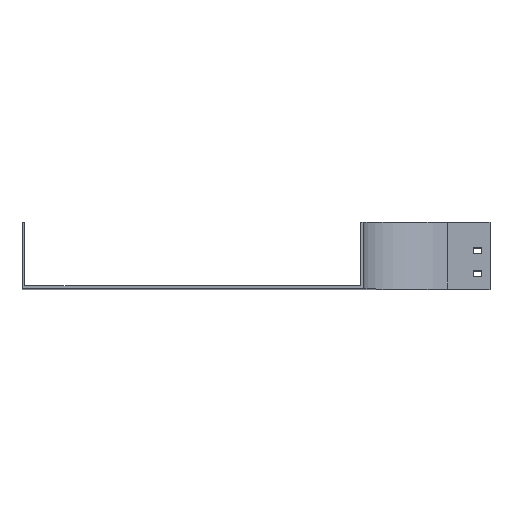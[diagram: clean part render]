
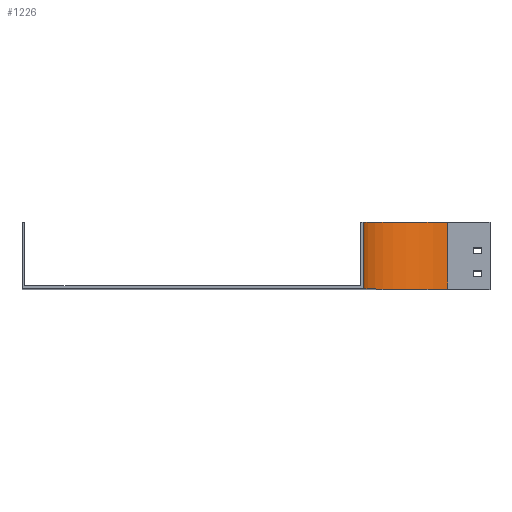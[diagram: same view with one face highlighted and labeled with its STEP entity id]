
A CAD part, top view. The second image highlights one B-rep face of the part: STEP entity #1226.
In plain terms, the highlighted cylindrical face has radius 100 mm (diameter 200 mm), a partial arc.
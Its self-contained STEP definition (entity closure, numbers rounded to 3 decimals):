
#89 = DIRECTION ( 'NONE',  ( 0., -1., 0. ) ) ;
#132 = LINE ( 'NONE', #1011, #655 ) ;
#157 = CIRCLE ( 'NONE', #797, 100. ) ;
#178 = CARTESIAN_POINT ( 'NONE',  ( -100., 79., 0. ) ) ;
#294 = LINE ( 'NONE', #1767, #1686 ) ;
#536 = DIRECTION ( 'NONE',  ( 0., 0., -1. ) ) ;
#538 = CARTESIAN_POINT ( 'NONE',  ( 0., 79., -100. ) ) ;
#555 = EDGE_CURVE ( 'NONE', #2534, #2693, #132, .T. ) ;
#579 = ORIENTED_EDGE ( 'NONE', *, *, #555, .T. ) ;
#655 = VECTOR ( 'NONE', #2504, 1000. ) ;
#708 = DIRECTION ( 'NONE',  ( 0., -1., 0. ) ) ;
#797 = AXIS2_PLACEMENT_3D ( 'NONE', #1222, #1407, #536 ) ;
#879 = DIRECTION ( 'NONE',  ( 0., 0., -1. ) ) ;
#924 = VERTEX_POINT ( 'NONE', #538 ) ;
#1011 = CARTESIAN_POINT ( 'NONE',  ( -100., 79., 0. ) ) ;
#1015 = CIRCLE ( 'NONE', #2550, 100. ) ;
#1091 = CYLINDRICAL_SURFACE ( 'NONE', #1113, 100. ) ;
#1113 = AXIS2_PLACEMENT_3D ( 'NONE', #1930, #2763, #879 ) ;
#1222 = CARTESIAN_POINT ( 'NONE',  ( 0., 79., 0. ) ) ;
#1226 = ADVANCED_FACE ( 'NONE', ( #2132 ), #1091, .F. ) ;
#1378 = ORIENTED_EDGE ( 'NONE', *, *, #1581, .T. ) ;
#1393 = EDGE_LOOP ( 'NONE', ( #1378, #2219, #1536, #579 ) ) ;
#1407 = DIRECTION ( 'NONE',  ( 0., -1., 0. ) ) ;
#1532 = EDGE_CURVE ( 'NONE', #924, #1910, #294, .T. ) ;
#1536 = ORIENTED_EDGE ( 'NONE', *, *, #2372, .F. ) ;
#1581 = EDGE_CURVE ( 'NONE', #2693, #1910, #1015, .T. ) ;
#1646 = DIRECTION ( 'NONE',  ( 0., 0., -1. ) ) ;
#1686 = VECTOR ( 'NONE', #708, 1000. ) ;
#1767 = CARTESIAN_POINT ( 'NONE',  ( 0., 79., -100. ) ) ;
#1843 = CARTESIAN_POINT ( 'NONE',  ( 0., 0., -100. ) ) ;
#1909 = CARTESIAN_POINT ( 'NONE',  ( -100., 0., 0. ) ) ;
#1910 = VERTEX_POINT ( 'NONE', #1843 ) ;
#1930 = CARTESIAN_POINT ( 'NONE',  ( 0., 79., 0. ) ) ;
#2132 = FACE_OUTER_BOUND ( 'NONE', #1393, .T. ) ;
#2219 = ORIENTED_EDGE ( 'NONE', *, *, #1532, .F. ) ;
#2372 = EDGE_CURVE ( 'NONE', #2534, #924, #157, .T. ) ;
#2460 = CARTESIAN_POINT ( 'NONE',  ( 0., 0., 0. ) ) ;
#2504 = DIRECTION ( 'NONE',  ( 0., -1., 0. ) ) ;
#2534 = VERTEX_POINT ( 'NONE', #178 ) ;
#2550 = AXIS2_PLACEMENT_3D ( 'NONE', #2460, #89, #1646 ) ;
#2693 = VERTEX_POINT ( 'NONE', #1909 ) ;
#2763 = DIRECTION ( 'NONE',  ( 0., -1., 0. ) ) ;
